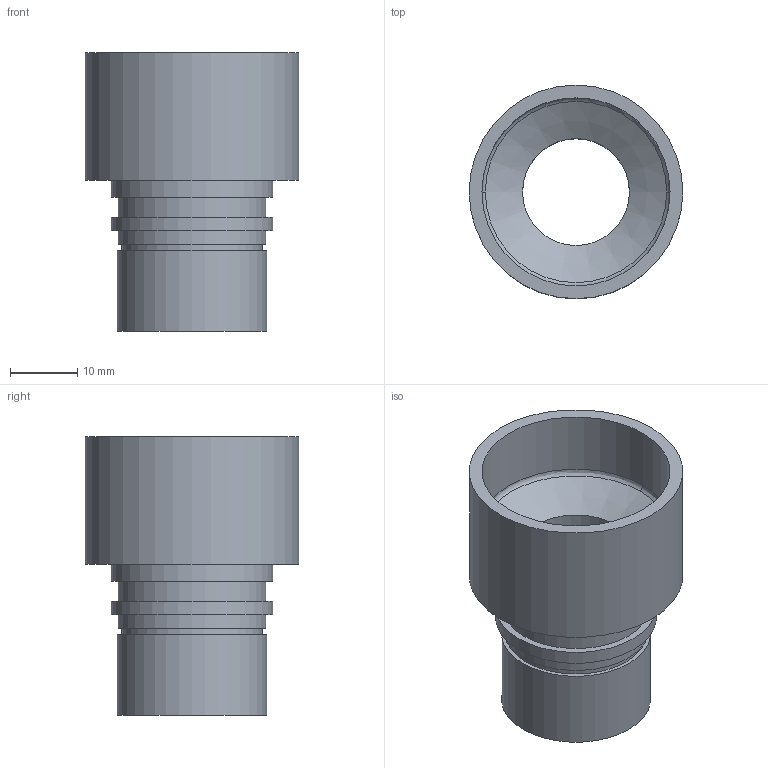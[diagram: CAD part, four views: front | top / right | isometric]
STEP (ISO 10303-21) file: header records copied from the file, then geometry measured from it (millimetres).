
FILE_DESCRIPTION (( 'STEP AP203' ), '1' );
FILE_NAME ('70-19.05R31.8-PH.STEP', '2013-09-19T10:47:55', ( '' ), ( '' ), 'SwSTEP 2.0', 'SolidWorks 2012', '' );
FILE_SCHEMA (( 'CONFIG_CONTROL_DESIGN' ));
Length unit declared in the file: millimetre
Products named in the file (1): 70-19.05R31.8-PH
Bounding box: 31.8 x 31.8 x 41.5 mm (x, y, z)
Volume: 10311.4 mm3; surface area: 7308.9 mm2
Topology: 1 solids, 1 shells, 22 faces, 36 edges, 23 vertices
Faces by surface type: cylinder 10, plane 9, bspline 2, cone 1
Full cylindrical faces by diameter (mm): 15.9 x1, 19.05 x1, 21 x1, 22 x2, 22.2 x1, 24 x2, 28 x1, 31.8 x1
Entity records: 567 total; most frequent: CARTESIAN_POINT 107, DIRECTION 88, ORIENTED_EDGE 50, AXIS2_PLACEMENT_3D 44, EDGE_LOOP 42, FACE_OUTER_BOUND 32, EDGE_CURVE 25, VERTEX_POINT 23
